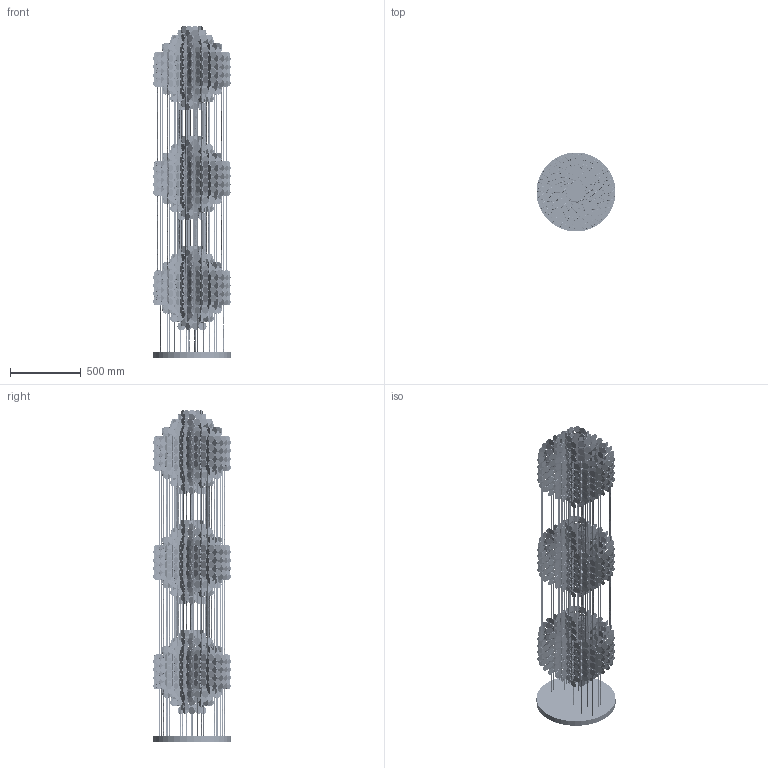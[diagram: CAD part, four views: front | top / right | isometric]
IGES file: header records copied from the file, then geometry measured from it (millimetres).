
Start section: SolidWorks IGES file using analytic representation for surfaces
Global section: file name: C:\Users\Chiina\Desktop\Chiina\Dokumendid\Frandsen Project\VerPan\Fun 3DM\FUN 3DM assembly.IGS; native system: SolidWorks 2013; preprocessor: SolidWorks 2013; author: Chiina; date: 130107.201712; units: millimetre
Bounding box: 559.39 x 559.39 x 2351.3 mm (x, y, z)
Surface area: 12644563.6 mm2 (no closed solid volume)
Topology: 0 solids, 0 shells, 13102 faces, 404456 edges, 404456 vertices
Faces by surface type: revolution 6618, bspline 6484
